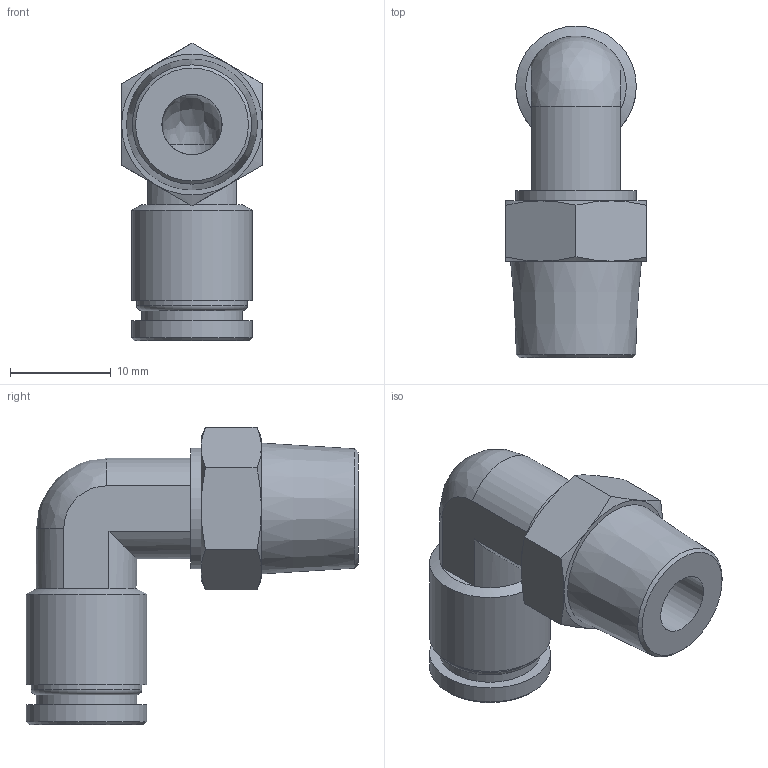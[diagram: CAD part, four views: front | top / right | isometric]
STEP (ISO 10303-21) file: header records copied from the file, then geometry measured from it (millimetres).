
FILE_DESCRIPTION(/* description */ (''),/* implementation_level */ '2;1');
FILE_NAME(/* name */ 'LXH21 0008 B2.stp',/* time_stamp */ '2026-05-01T12:33:57+02:00',/* author */ ('freju'),/* organization */ (''),/* preprocessor_version */ 'ST-DEVELOPER v20.1',/* originating_system */ 'Autodesk Inventor 2026',/* authorisation */ '');
FILE_SCHEMA (('AUTOMOTIVE_DESIGN { 1 0 10303 214 3 1 1 }'));
Length unit declared in the file: millimetre
Products named in the file (1): LXH21 0008 B2
Bounding box: 14 x 33 x 29.58 mm (x, y, z)
Volume: 3360.9 mm3; surface area: 3093.7 mm2
Topology: 1 solids, 1 shells, 49 faces, 108 edges, 65 vertices
Faces by surface type: plane 18, cone 16, cylinder 12, bspline 2, torus 1
Full cylindrical faces by diameter (mm): 6 x2, 8 x1, 10 x1, 11 x1, 12 x3
Entity records: 1385 total; most frequent: CARTESIAN_POINT 303, DIRECTION 230, ORIENTED_EDGE 212, EDGE_CURVE 106, AXIS2_PLACEMENT_3D 100, VERTEX_POINT 65, EDGE_LOOP 57, CIRCLE 50
